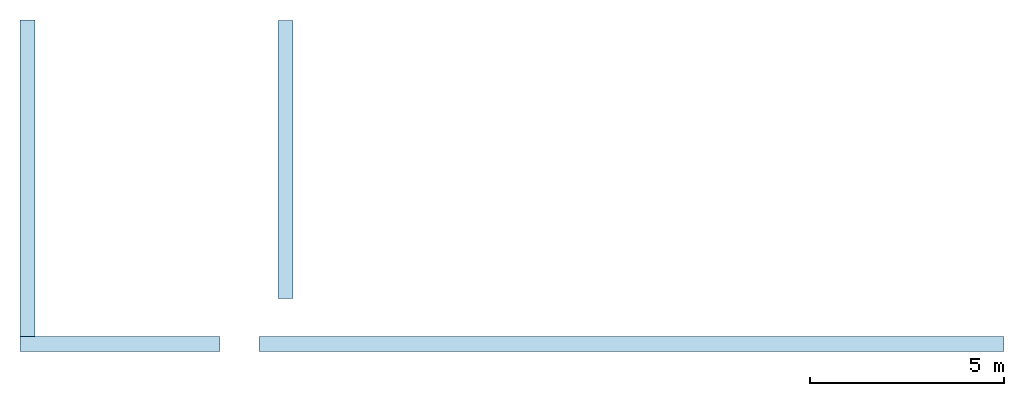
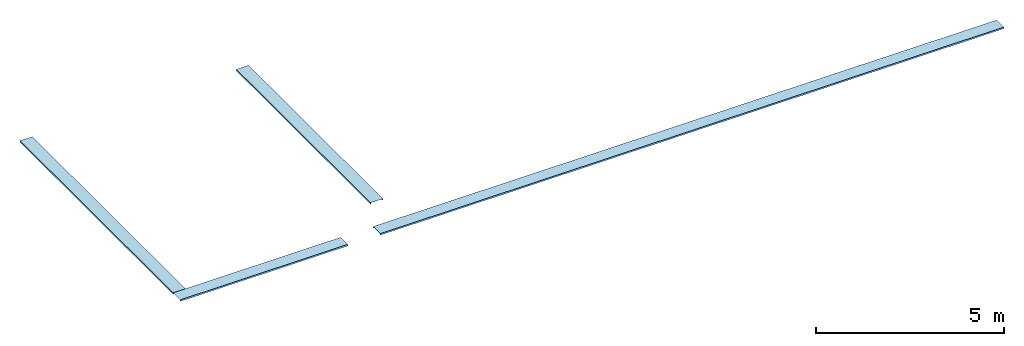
# One storey: 4 slabs, 4 elements without a shape of their own.
"""IFC2X3 building model written with IfcOpenShell, lengths in centimetres."""

from ifc_helpers import new_model, entity, si_unit, converted_unit, derived_unit, direction, frame, frame_2d, origin, place, context, subcontext, project, spatial, polyline, rectangle, outline, extrude, material, element, aggregate, save


model = new_model("IFC2X3")

# Units and contexts
model_context = context("Model", 3, precision=0.001, world=origin(), true_north=direction((6.12303176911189e-17, 1.0)))
body_context = subcontext(model_context, "Body", "Model", "MODEL_VIEW")
ifc_project = project(units=[si_unit("LENGTHUNIT", "METRE", prefix="CENTI"), si_unit("AREAUNIT", "SQUARE_METRE"), si_unit("VOLUMEUNIT", "CUBIC_METRE"), converted_unit("PLANEANGLEUNIT", "DEGREE", entity("IfcRatioMeasure", 0.0174532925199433), si_unit("PLANEANGLEUNIT", "RADIAN"), dimensions=[0, 0, 0, 0, 0, 0, 0]), si_unit("MASSUNIT", "GRAM", prefix="KILO"), derived_unit("MASSDENSITYUNIT", [(si_unit("MASSUNIT", "GRAM", prefix="KILO"), 1), (si_unit("LENGTHUNIT", "METRE"), -3)]), si_unit("TIMEUNIT", "SECOND"), si_unit("FREQUENCYUNIT", "HERTZ"), si_unit("THERMODYNAMICTEMPERATUREUNIT", "DEGREE_CELSIUS"), derived_unit("THERMALTRANSMITTANCEUNIT", [(si_unit("MASSUNIT", "GRAM", prefix="KILO"), 1), (si_unit("THERMODYNAMICTEMPERATUREUNIT", "KELVIN"), -1), (si_unit("TIMEUNIT", "SECOND"), -3)]), derived_unit("VOLUMETRICFLOWRATEUNIT", [(si_unit("LENGTHUNIT", "METRE"), 3), (si_unit("TIMEUNIT", "SECOND"), -1)]), si_unit("ELECTRICCURRENTUNIT", "AMPERE"), si_unit("ELECTRICVOLTAGEUNIT", "VOLT"), si_unit("POWERUNIT", "WATT"), si_unit("FORCEUNIT", "NEWTON", prefix="KILO"), si_unit("ILLUMINANCEUNIT", "LUX"), si_unit("LUMINOUSFLUXUNIT", "LUMEN"), si_unit("LUMINOUSINTENSITYUNIT", "CANDELA"), derived_unit("USERDEFINED", [(si_unit("MASSUNIT", "GRAM", prefix="KILO"), -1), (si_unit("LENGTHUNIT", "METRE"), -2), (si_unit("TIMEUNIT", "SECOND"), 3), (si_unit("LUMINOUSFLUXUNIT", "LUMEN"), 1)]), derived_unit("LINEARVELOCITYUNIT", [(si_unit("LENGTHUNIT", "METRE"), 1), (si_unit("TIMEUNIT", "SECOND"), -1)]), si_unit("PRESSUREUNIT", "PASCAL"), derived_unit("USERDEFINED", [(si_unit("LENGTHUNIT", "METRE"), -2), (si_unit("MASSUNIT", "GRAM", prefix="KILO"), 1), (si_unit("TIMEUNIT", "SECOND"), -2)])], contexts=[model_context])

# Site, building, storey
site_placement = place(None, frame((-2781.94577612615, 7442.24238424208, 0.0)))
site = spatial("IfcSite", under=ifc_project, at=site_placement, Name="Default", CompositionType="ELEMENT")
building_placement = place(site_placement, origin())
building = spatial("IfcBuilding", under=site, at=building_placement, CompositionType="ELEMENT")
storey_placement = place(building_placement, frame((0.0, 0.0, 740.0)))
storey = spatial("IfcBuildingStorey", under=building, at=storey_placement, Name="SAM - Toiture", CompositionType="ELEMENT", Elevation=740.000000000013)

# Roof, slab
ifc_material = material(Name="Aluminium")
roof_1_placement = place(storey_placement, origin())
roof_1 = element("IfcRoof", 1, at=roof_1_placement, inside=storey, material=ifc_material, ShapeType="NOTDEFINED")
slab_1_placement = place(storey_placement, origin())
slab_1 = element("IfcSlab", 2, at=slab_1_placement, material=ifc_material, Name="Couvertine edicule accès toiture du  self:Couvertine edicule accès toiture du  self:1", ObjectType="Couvertine edicule accès toiture du  self:Couvertine edicule accès toiture du  self", PredefinedType="ROOF", context=body_context, shape_type="SweptSolid", body=[
    extrude(rectangle(XDim=0.499999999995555, YDim=0.499999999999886, at=frame_2d((-4.33139635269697e-13, -8.66293148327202e-13), x_axis=(1.0, 0.0))), frame((-11103.632807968, -4189.25027342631, -4.0), z_axis=(0.0, 0.0, 1.0), x_axis=(0.0, 1.0, 0.0)), (0.0, 0.0, 1.0), 4.49999999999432),
    extrude(outline(polyline([(-18.4999999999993, -2.12499999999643), (-18.4999999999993, 2.37499999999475), (-19.0, 2.37499999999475), (-19.0, -2.62499999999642), (19.0, -2.62499999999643), (19.0, 2.37499999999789), (18.500000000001, 2.37499999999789), (18.500000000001, -2.12499999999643), (-18.4999999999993, -2.12499999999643)])), frame((-11084.882807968, -4188.50027342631, -1.62500000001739), z_axis=(0.0, -1.0, 0.0), x_axis=(-1.0, 0.0, 0.0)), (0.0, 0.0, -1.0), 815.978466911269),
    extrude(rectangle(XDim=0.499999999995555, YDim=0.499999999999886, at=frame_2d((-4.33139635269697e-13, 8.66293148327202e-13), x_axis=(1.0, 0.0))), frame((-11066.132807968, -4189.25027342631, -4.0), z_axis=(0.0, 0.0, 1.0), x_axis=(0.0, 1.0, 0.0)), (0.0, 0.0, 1.0), 4.49999999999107),
])
aggregate(roof_1, [slab_1])

roof_2_placement = place(storey_placement, origin())
roof_2 = element("IfcRoof", 3, at=roof_2_placement, inside=storey, material=ifc_material, ShapeType="NOTDEFINED")
slab_2_placement = place(storey_placement, origin())
slab_2 = element("IfcSlab", 4, at=slab_2_placement, material=ifc_material, Name="Couvertine edicule accès toiture du  self1:Couvertine edicule accès toiture du  self:1", ObjectType="Couvertine edicule accès toiture du  self1:Couvertine edicule accès toiture du  self", PredefinedType="ROOF", context=body_context, shape_type="SweptSolid", body=[
    extrude(outline(polyline([(-18.4999999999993, -2.12499999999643), (-18.4999999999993, 2.37499999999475), (-19.0, 2.37499999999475), (-19.0, -2.62499999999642), (19.0, -2.62499999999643), (19.0, 2.37499999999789), (18.500000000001, 2.37499999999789), (18.500000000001, -2.12499999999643), (-18.4999999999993, -2.12499999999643)])), frame((-10419.9647381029, -4089.50027342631, -1.62500000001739), z_axis=(0.0, -1.0, 0.0), x_axis=(-1.0, 0.0, 0.0)), (0.0, 0.0, -1.0), 715.978466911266),
    extrude(rectangle(XDim=0.500000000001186, YDim=0.499999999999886, at=frame_2d((-2.16576756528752e-13, 8.66293148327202e-13), x_axis=(1.0, 0.0))), frame((-10438.7147381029, -3372.77180651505, -4.0), z_axis=(0.0, 0.0, 1.0), x_axis=(0.0, -1.0, 0.0)), (0.0, 0.0, 1.0), 4.49999999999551),
    extrude(rectangle(XDim=0.500000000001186, YDim=0.499999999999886, at=frame_2d((-2.16576756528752e-13, 8.66293148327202e-13), x_axis=(1.0, 0.0))), frame((-10401.2147381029, -3372.77180651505, -4.0), z_axis=(0.0, 0.0, 1.0), x_axis=(0.0, -1.0, 0.0)), (0.0, 0.0, 1.0), 4.49999999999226),
])
aggregate(roof_2, [slab_2])

roof_3_placement = place(storey_placement, origin())
roof_3 = element("IfcRoof", 5, at=roof_3_placement, inside=storey, material=ifc_material, ShapeType="NOTDEFINED")
slab_3_placement = place(storey_placement, origin())
slab_3 = element("IfcSlab", 6, at=slab_3_placement, material=ifc_material, Name="Couvertine edicule accès toiture du  self2:Couvertine edicule accès toiture du  self:1", ObjectType="Couvertine edicule accès toiture du  self2:Couvertine edicule accès toiture du  self", PredefinedType="ROOF", context=body_context, shape_type="SweptSolid", body=[
    extrude(outline(polyline([(-20.5000000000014, -1.88888888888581), (-20.5000000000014, 2.61111111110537), (-21.0, 2.61111111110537), (-21.0, -2.38888888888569), (17.0, -2.38888888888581), (17.0, 2.61111111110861), (16.4999999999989, 2.61111111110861), (16.4999999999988, -1.88888888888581), (16.0, -1.88888888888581), (-20.5000000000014, -1.88888888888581)])), frame((-11103.882807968, -4205.50027342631, -1.38888888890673), z_axis=(-1.0, 0.0, 0.0), x_axis=(0.0, 1.0, 0.0)), (0.0, 0.0, -1.0), 515.558069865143),
])
aggregate(roof_3, [slab_3])

roof_4_placement = place(storey_placement, origin())
roof_4 = element("IfcRoof", 7, at=roof_4_placement, inside=storey, material=ifc_material, ShapeType="NOTDEFINED")
slab_4_placement = place(storey_placement, origin())
slab_4 = element("IfcSlab", 8, at=slab_4_placement, material=ifc_material, Name="Couvertine edicule accès toiture du  self3:Couvertine edicule accès toiture du  self:1", ObjectType="Couvertine edicule accès toiture du  self3:Couvertine edicule accès toiture du  self", PredefinedType="ROOF", context=body_context, shape_type="SweptSolid", body=[
    extrude(outline(polyline([(-18.500000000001, -2.12499999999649), (-18.500000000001, 2.3749999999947), (-19.0, 2.3749999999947), (-19.0, -2.62499999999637), (19.0, -2.62499999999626), (19.0, 2.37499999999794), (18.4999999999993, 2.37499999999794), (18.4999999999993, -2.12499999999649), (-18.500000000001, -2.12499999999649)])), frame((-10488.3647381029, -4207.50027342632, -1.62500000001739), z_axis=(-1.0, 0.0, 0.0), x_axis=(0.0, 1.0, 0.0)), (0.0, 0.0, -1.0), 1919.37735720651),
])
aggregate(roof_4, [slab_4])

save(model, "model.ifc")
